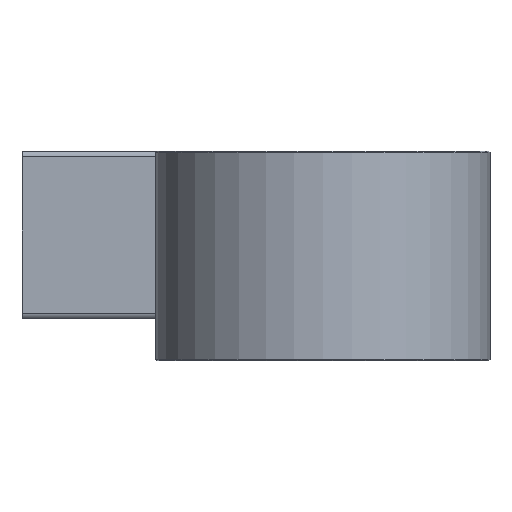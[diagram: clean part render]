
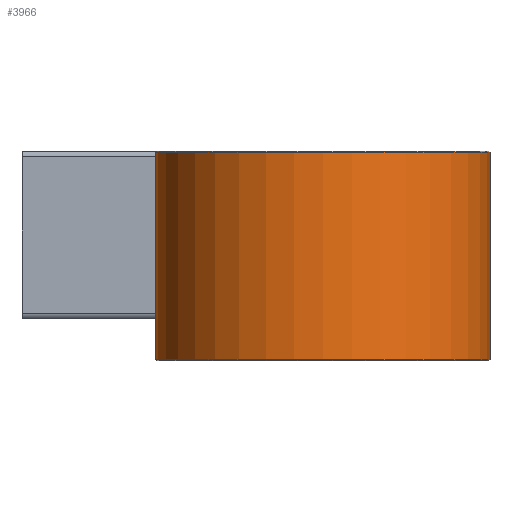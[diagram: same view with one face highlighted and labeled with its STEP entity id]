
A CAD part, front view. The second image highlights one B-rep face of the part: STEP entity #3966.
In plain terms, the highlighted cylindrical face has radius 59.8 mm (diameter 119.6 mm), a full revolution.
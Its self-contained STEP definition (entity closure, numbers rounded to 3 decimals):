
#16=B_SPLINE_CURVE_WITH_KNOTS('',3,(#6395,#6396,#6397,#6398,#6399,#6400,
#6401,#6402,#6403,#6404,#6405,#6406,#6407,#6408,#6409,#6410,#6411,#6412),
 .UNSPECIFIED.,.F.,.F.,(4,2,2,2,2,2,2,2,4),(1.018,1.272,
1.527,1.781,2.036,2.29,2.545,
2.799,3.054),.UNSPECIFIED.);
#17=B_SPLINE_CURVE_WITH_KNOTS('',3,(#6414,#6415,#6416,#6417,#6418,#6419,
#6420,#6421,#6422,#6423),.UNSPECIFIED.,.F.,.F.,(4,2,2,2,4),(4.072,
4.326,4.581,4.835,5.09),
 .UNSPECIFIED.);
#18=B_SPLINE_CURVE_WITH_KNOTS('',3,(#6427,#6428,#6429,#6430,#6431,#6432,
#6433,#6434,#6435,#6436),.UNSPECIFIED.,.F.,.F.,(4,2,2,2,4),(3.054,
3.308,3.563,3.817,4.072),
 .UNSPECIFIED.);
#80=FACE_BOUND('',#587,.T.);
#157=CYLINDRICAL_SURFACE('',#4361,59.8);
#343=FACE_OUTER_BOUND('',#586,.T.);
#586=EDGE_LOOP('',(#3129,#3130,#3131,#3132,#3133,#3134));
#587=EDGE_LOOP('',(#3135,#3136,#3137));
#801=CIRCLE('',#4359,59.8);
#802=CIRCLE('',#4360,59.8);
#803=CIRCLE('',#4362,59.8);
#804=CIRCLE('',#4363,59.8);
#1104=LINE('',#6516,#1420);
#1420=VECTOR('',#5328,59.8);
#1711=VERTEX_POINT('',#6393);
#1712=VERTEX_POINT('',#6394);
#1713=VERTEX_POINT('',#6413);
#1733=VERTEX_POINT('',#6506);
#1734=VERTEX_POINT('',#6507);
#1735=VERTEX_POINT('',#6512);
#1736=VERTEX_POINT('',#6513);
#2189=EDGE_CURVE('',#1711,#1712,#16,.T.);
#2190=EDGE_CURVE('',#1713,#1711,#17,.T.);
#2193=EDGE_CURVE('',#1712,#1713,#18,.T.);
#2218=EDGE_CURVE('',#1733,#1734,#801,.T.);
#2219=EDGE_CURVE('',#1734,#1733,#802,.T.);
#2221=EDGE_CURVE('',#1735,#1736,#803,.T.);
#2222=EDGE_CURVE('',#1736,#1735,#804,.T.);
#2223=EDGE_CURVE('',#1736,#1734,#1104,.T.);
#3129=ORIENTED_EDGE('',*,*,#2221,.F.);
#3130=ORIENTED_EDGE('',*,*,#2222,.F.);
#3131=ORIENTED_EDGE('',*,*,#2223,.T.);
#3132=ORIENTED_EDGE('',*,*,#2218,.F.);
#3133=ORIENTED_EDGE('',*,*,#2219,.F.);
#3134=ORIENTED_EDGE('',*,*,#2223,.F.);
#3135=ORIENTED_EDGE('',*,*,#2193,.T.);
#3136=ORIENTED_EDGE('',*,*,#2190,.T.);
#3137=ORIENTED_EDGE('',*,*,#2189,.T.);
#3966=ADVANCED_FACE('',(#343,#80),#157,.T.);
#4359=AXIS2_PLACEMENT_3D('',#6508,#5317,#5318);
#4360=AXIS2_PLACEMENT_3D('',#6509,#5319,#5320);
#4361=AXIS2_PLACEMENT_3D('',#6511,#5322,#5323);
#4362=AXIS2_PLACEMENT_3D('',#6514,#5324,#5325);
#4363=AXIS2_PLACEMENT_3D('',#6515,#5326,#5327);
#5317=DIRECTION('center_axis',(0.,0.,
1.));
#5318=DIRECTION('ref_axis',(-1.,0.,0.));
#5319=DIRECTION('center_axis',(0.,0.,
1.));
#5320=DIRECTION('ref_axis',(-1.,0.,0.));
#5322=DIRECTION('center_axis',(0.,0.,
-1.));
#5323=DIRECTION('ref_axis',(1.,0.,0.));
#5324=DIRECTION('center_axis',(0.,0.,
-1.));
#5325=DIRECTION('ref_axis',(-1.,0.,0.));
#5326=DIRECTION('center_axis',(0.,0.,
-1.));
#5327=DIRECTION('ref_axis',(-1.,0.,0.));
#5328=DIRECTION('',(0.,0.,1.));
#6393=CARTESIAN_POINT('',(27.5,-80.4,-6.75));
#6394=CARTESIAN_POINT('',(27.5,-80.4,6.75));
#6395=CARTESIAN_POINT('Ctrl Pts',(27.5,-80.4,-6.75));
#6396=CARTESIAN_POINT('Ctrl Pts',(28.348,-80.4,-6.75));
#6397=CARTESIAN_POINT('Ctrl Pts',(29.253,-80.42,-6.58));
#6398=CARTESIAN_POINT('Ctrl Pts',(30.916,-80.492,-5.891));
#6399=CARTESIAN_POINT('Ctrl Pts',(31.674,-80.543,-5.372));
#6400=CARTESIAN_POINT('Ctrl Pts',(32.872,-80.639,-4.174));
#6401=CARTESIAN_POINT('Ctrl Pts',(33.391,-80.69,-3.416));
#6402=CARTESIAN_POINT('Ctrl Pts',(34.08,-80.762,-1.753));
#6403=CARTESIAN_POINT('Ctrl Pts',(34.25,-80.782,-0.848));
#6404=CARTESIAN_POINT('Ctrl Pts',(34.25,-80.782,0.848));
#6405=CARTESIAN_POINT('Ctrl Pts',(34.08,-80.762,1.753));
#6406=CARTESIAN_POINT('Ctrl Pts',(33.391,-80.69,3.416));
#6407=CARTESIAN_POINT('Ctrl Pts',(32.872,-80.639,4.174));
#6408=CARTESIAN_POINT('Ctrl Pts',(31.674,-80.543,5.372));
#6409=CARTESIAN_POINT('Ctrl Pts',(30.916,-80.492,5.891));
#6410=CARTESIAN_POINT('Ctrl Pts',(29.253,-80.42,6.58));
#6411=CARTESIAN_POINT('Ctrl Pts',(28.348,-80.4,6.75));
#6412=CARTESIAN_POINT('Ctrl Pts',(27.5,-80.4,6.75));
#6413=CARTESIAN_POINT('',(20.75,-80.782,0.));
#6414=CARTESIAN_POINT('Ctrl Pts',(20.75,-80.782,0.));
#6415=CARTESIAN_POINT('Ctrl Pts',(20.75,-80.782,-0.848));
#6416=CARTESIAN_POINT('Ctrl Pts',(20.92,-80.762,-1.753));
#6417=CARTESIAN_POINT('Ctrl Pts',(21.609,-80.69,-3.416));
#6418=CARTESIAN_POINT('Ctrl Pts',(22.128,-80.639,-4.174));
#6419=CARTESIAN_POINT('Ctrl Pts',(23.326,-80.543,-5.372));
#6420=CARTESIAN_POINT('Ctrl Pts',(24.084,-80.492,-5.891));
#6421=CARTESIAN_POINT('Ctrl Pts',(25.747,-80.42,-6.58));
#6422=CARTESIAN_POINT('Ctrl Pts',(26.652,-80.4,-6.75));
#6423=CARTESIAN_POINT('Ctrl Pts',(27.5,-80.4,-6.75));
#6427=CARTESIAN_POINT('Ctrl Pts',(27.5,-80.4,6.75));
#6428=CARTESIAN_POINT('Ctrl Pts',(26.652,-80.4,6.75));
#6429=CARTESIAN_POINT('Ctrl Pts',(25.747,-80.42,6.58));
#6430=CARTESIAN_POINT('Ctrl Pts',(24.084,-80.492,5.891));
#6431=CARTESIAN_POINT('Ctrl Pts',(23.326,-80.543,5.372));
#6432=CARTESIAN_POINT('Ctrl Pts',(22.128,-80.639,4.174));
#6433=CARTESIAN_POINT('Ctrl Pts',(21.609,-80.69,3.416));
#6434=CARTESIAN_POINT('Ctrl Pts',(20.92,-80.762,1.753));
#6435=CARTESIAN_POINT('Ctrl Pts',(20.75,-80.782,0.848));
#6436=CARTESIAN_POINT('Ctrl Pts',(20.75,-80.782,0.));
#6506=CARTESIAN_POINT('',(87.3,-140.2,29.5));
#6507=CARTESIAN_POINT('',(-32.3,-140.2,29.5));
#6508=CARTESIAN_POINT('Origin',(27.5,-140.2,29.5));
#6509=CARTESIAN_POINT('Origin',(27.5,-140.2,29.5));
#6511=CARTESIAN_POINT('Origin',(27.5,-140.2,-7.5));
#6512=CARTESIAN_POINT('',(87.3,-140.2,-44.5));
#6513=CARTESIAN_POINT('',(-32.3,-140.2,-44.5));
#6514=CARTESIAN_POINT('Origin',(27.5,-140.2,-44.5));
#6515=CARTESIAN_POINT('Origin',(27.5,-140.2,-44.5));
#6516=CARTESIAN_POINT('',(-32.3,-140.2,-7.5));
